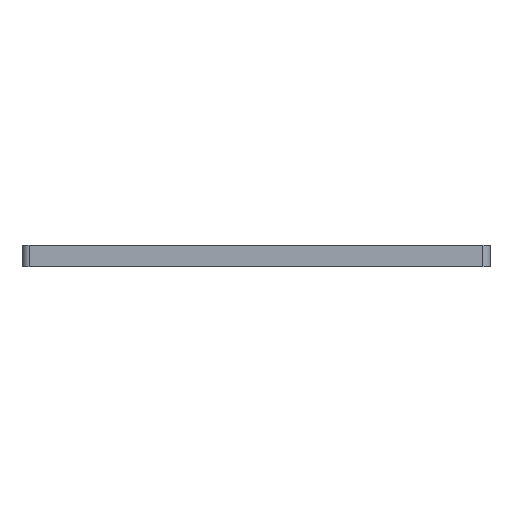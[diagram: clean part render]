
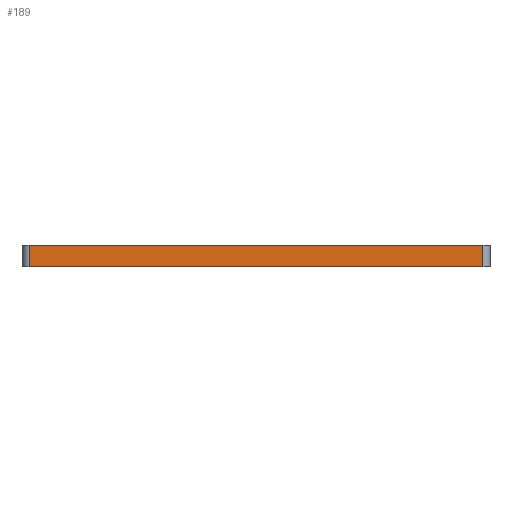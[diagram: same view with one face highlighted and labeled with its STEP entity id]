
A CAD part, left-side view. The second image highlights one B-rep face of the part: STEP entity #189.
In plain terms, the highlighted planar face has unit normal (-1, 0, 0).
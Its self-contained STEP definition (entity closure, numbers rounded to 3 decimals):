
#9 = VECTOR ( 'NONE', #51, 1000. ) ;
#35 = CARTESIAN_POINT ( 'NONE',  ( -61.5, 59.5, 6. ) ) ;
#51 = DIRECTION ( 'NONE',  ( 0., 0., -1. ) ) ;
#122 = VERTEX_POINT ( 'NONE', #220 ) ;
#166 = CARTESIAN_POINT ( 'NONE',  ( -61.5, -68., 0. ) ) ;
#170 = DIRECTION ( 'NONE',  ( 1., 0., 0. ) ) ;
#174 = FACE_OUTER_BOUND ( 'NONE', #594, .T. ) ;
#188 = EDGE_CURVE ( 'NONE', #313, #122, #359, .T. ) ;
#189 = ADVANCED_FACE ( 'NONE', ( #174 ), #655, .F. ) ;
#191 = EDGE_CURVE ( 'NONE', #595, #674, #332, .T. ) ;
#220 = CARTESIAN_POINT ( 'NONE',  ( -61.5, 59.5, 0. ) ) ;
#313 = VERTEX_POINT ( 'NONE', #35 ) ;
#332 = LINE ( 'NONE', #424, #9 ) ;
#359 = LINE ( 'NONE', #512, #651 ) ;
#377 = ORIENTED_EDGE ( 'NONE', *, *, #613, .T. ) ;
#424 = CARTESIAN_POINT ( 'NONE',  ( -61.5, -68., 6. ) ) ;
#429 = ORIENTED_EDGE ( 'NONE', *, *, #188, .T. ) ;
#446 = LINE ( 'NONE', #166, #579 ) ;
#449 = DIRECTION ( 'NONE',  ( 0., -1., 0. ) ) ;
#463 = DIRECTION ( 'NONE',  ( 0., 0., -1. ) ) ;
#479 = DIRECTION ( 'NONE',  ( 0., 0., -1. ) ) ;
#492 = CARTESIAN_POINT ( 'NONE',  ( -61.5, -68., 6. ) ) ;
#512 = CARTESIAN_POINT ( 'NONE',  ( -61.5, 59.5, 6. ) ) ;
#535 = CARTESIAN_POINT ( 'NONE',  ( -61.5, -68., 6. ) ) ;
#545 = VECTOR ( 'NONE', #605, 1000. ) ;
#550 = ORIENTED_EDGE ( 'NONE', *, *, #553, .F. ) ;
#553 = EDGE_CURVE ( 'NONE', #313, #595, #709, .T. ) ;
#579 = VECTOR ( 'NONE', #449, 1000. ) ;
#594 = EDGE_LOOP ( 'NONE', ( #377, #764, #550, #429 ) ) ;
#595 = VERTEX_POINT ( 'NONE', #728 ) ;
#605 = DIRECTION ( 'NONE',  ( 0., -1., 0. ) ) ;
#613 = EDGE_CURVE ( 'NONE', #122, #674, #446, .T. ) ;
#651 = VECTOR ( 'NONE', #463, 1000. ) ;
#655 = PLANE ( 'NONE',  #702 ) ;
#674 = VERTEX_POINT ( 'NONE', #731 ) ;
#702 = AXIS2_PLACEMENT_3D ( 'NONE', #535, #170, #479 ) ;
#709 = LINE ( 'NONE', #492, #545 ) ;
#728 = CARTESIAN_POINT ( 'NONE',  ( -61.5, -68., 6. ) ) ;
#731 = CARTESIAN_POINT ( 'NONE',  ( -61.5, -68., 0. ) ) ;
#764 = ORIENTED_EDGE ( 'NONE', *, *, #191, .F. ) ;
